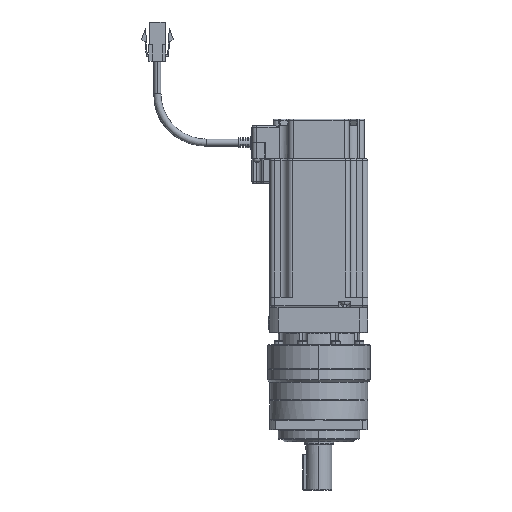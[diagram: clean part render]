
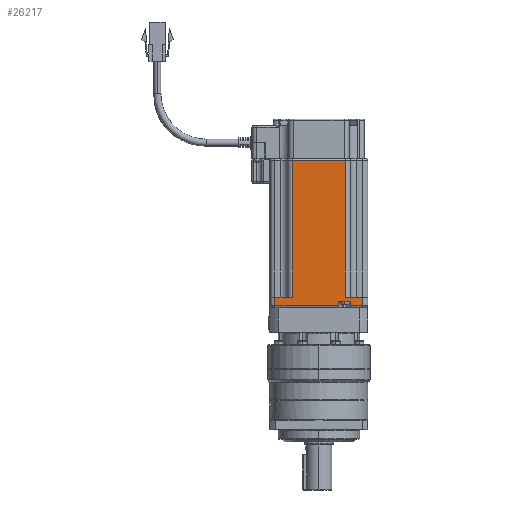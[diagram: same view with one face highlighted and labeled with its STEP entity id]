
A CAD part, left-side view. The second image highlights one B-rep face of the part: STEP entity #26217.
In plain terms, the highlighted planar face has unit normal (-1, 0, 0) as drawn and (1, 0, 0) by its records, which use the part's own axes.
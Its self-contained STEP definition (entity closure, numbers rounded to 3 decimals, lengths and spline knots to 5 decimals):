
#1265 = VERTEX_POINT ( 'NONE', #15795 ) ;
#1337 = VERTEX_POINT ( 'NONE', #15829 ) ;
#1387 = VERTEX_POINT ( 'NONE', #15854 ) ;
#1399 = VERTEX_POINT ( 'NONE', #15860 ) ;
#1407 = VERTEX_POINT ( 'NONE', #15864 ) ;
#1411 = VERTEX_POINT ( 'NONE', #15866 ) ;
#1413 = VERTEX_POINT ( 'NONE', #15867 ) ;
#1415 = VERTEX_POINT ( 'NONE', #15868 ) ;
#1417 = VERTEX_POINT ( 'NONE', #15869 ) ;
#1429 = VERTEX_POINT ( 'NONE', #15875 ) ;
#1469 = VERTEX_POINT ( 'NONE', #15895 ) ;
#1475 = VERTEX_POINT ( 'NONE', #15898 ) ;
#9415 = EDGE_CURVE ( 'NONE', #1387, #1399, #13157, .T. ) ;
#9424 = EDGE_CURVE ( 'NONE', #1399, #1337, #13171, .T. ) ;
#9426 = EDGE_CURVE ( 'NONE', #1337, #1415, #13175, .T. ) ;
#9427 = EDGE_CURVE ( 'NONE', #1415, #1411, #13176, .T. ) ;
#9430 = EDGE_CURVE ( 'NONE', #1411, #1407, #13182, .T. ) ;
#9432 = EDGE_CURVE ( 'NONE', #1407, #1413, #13186, .T. ) ;
#9433 = EDGE_CURVE ( 'NONE', #1413, #1265, #13187, .T. ) ;
#9435 = EDGE_CURVE ( 'NONE', #1265, #1417, #13167, .T. ) ;
#9443 = EDGE_CURVE ( 'NONE', #1417, #1429, #13202, .T. ) ;
#9479 = EDGE_CURVE ( 'NONE', #1475, #1387, #13264, .T. ) ;
#9481 = EDGE_CURVE ( 'NONE', #1469, #1429, #13267, .T. ) ;
#9482 = EDGE_CURVE ( 'NONE', #1475, #1469, #13272, .T. ) ;
#13157 = LINE ( 'NONE', #19327, #13160 ) ;
#13160 = VECTOR ( 'NONE', #19329, 1. ) ;
#13167 = LINE ( 'NONE', #19373, #13193 ) ;
#13171 = LINE ( 'NONE', #19351, #13174 ) ;
#13174 = VECTOR ( 'NONE', #19352, 1. ) ;
#13175 = LINE ( 'NONE', #19346, #13177 ) ;
#13176 = LINE ( 'NONE', #19358, #13179 ) ;
#13177 = VECTOR ( 'NONE', #19347, 1. ) ;
#13179 = VECTOR ( 'NONE', #19359, 1. ) ;
#13182 = LINE ( 'NONE', #19364, #13185 ) ;
#13185 = VECTOR ( 'NONE', #19365, 1. ) ;
#13186 = LINE ( 'NONE', #19353, #13188 ) ;
#13187 = LINE ( 'NONE', #19370, #13190 ) ;
#13188 = VECTOR ( 'NONE', #19354, 1. ) ;
#13190 = VECTOR ( 'NONE', #19371, 1. ) ;
#13193 = VECTOR ( 'NONE', #19366, 1. ) ;
#13202 = LINE ( 'NONE', #19392, #13206 ) ;
#13206 = VECTOR ( 'NONE', #19390, 1. ) ;
#13264 = LINE ( 'NONE', #19467, #13270 ) ;
#13267 = LINE ( 'NONE', #19477, #13273 ) ;
#13270 = VECTOR ( 'NONE', #19475, 1. ) ;
#13272 = LINE ( 'NONE', #19481, #13275 ) ;
#13273 = VECTOR ( 'NONE', #19473, 1. ) ;
#13275 = VECTOR ( 'NONE', #19483, 1. ) ;
#15795 = CARTESIAN_POINT ( 'NONE',  ( 0.09218, 0.21269, -0.211 ) ) ;
#15829 = CARTESIAN_POINT ( 'NONE',  ( 0.09218, 0.15869, -0.211 ) ) ;
#15854 = CARTESIAN_POINT ( 'NONE',  ( 0.09218, 0.16939, -0.2057 ) ) ;
#15860 = CARTESIAN_POINT ( 'NONE',  ( 0.09218, 0.15869, -0.2057 ) ) ;
#15864 = CARTESIAN_POINT ( 'NONE',  ( 0.09218, 0.20529, -0.2085 ) ) ;
#15866 = CARTESIAN_POINT ( 'NONE',  ( 0.09218, 0.19789, -0.2085 ) ) ;
#15867 = CARTESIAN_POINT ( 'NONE',  ( 0.09218, 0.20529, -0.211 ) ) ;
#15868 = CARTESIAN_POINT ( 'NONE',  ( 0.09218, 0.19789, -0.211 ) ) ;
#15869 = CARTESIAN_POINT ( 'NONE',  ( 0.09218, 0.21269, -0.2057 ) ) ;
#15875 = CARTESIAN_POINT ( 'NONE',  ( 0.09218, 0.20199, -0.2057 ) ) ;
#15895 = CARTESIAN_POINT ( 'NONE',  ( 0.09218, 0.20199, -0.122 ) ) ;
#15898 = CARTESIAN_POINT ( 'NONE',  ( 0.09218, 0.16939, -0.122 ) ) ;
#17571 = ORIENTED_EDGE ( 'NONE', *, *, #9443, .T. ) ;
#17572 = ORIENTED_EDGE ( 'NONE', *, *, #9481, .F. ) ;
#17573 = ORIENTED_EDGE ( 'NONE', *, *, #9482, .F. ) ;
#17574 = ORIENTED_EDGE ( 'NONE', *, *, #9479, .T. ) ;
#17575 = ORIENTED_EDGE ( 'NONE', *, *, #9415, .T. ) ;
#17576 = ORIENTED_EDGE ( 'NONE', *, *, #9424, .T. ) ;
#17577 = ORIENTED_EDGE ( 'NONE', *, *, #9426, .T. ) ;
#17578 = ORIENTED_EDGE ( 'NONE', *, *, #9427, .T. ) ;
#17579 = ORIENTED_EDGE ( 'NONE', *, *, #9430, .T. ) ;
#17580 = ORIENTED_EDGE ( 'NONE', *, *, #9432, .T. ) ;
#17581 = ORIENTED_EDGE ( 'NONE', *, *, #9433, .T. ) ;
#17582 = ORIENTED_EDGE ( 'NONE', *, *, #9435, .T. ) ;
#19327 = CARTESIAN_POINT ( 'NONE',  ( 0.09218, 0.18569, -0.2057 ) ) ;
#19329 = DIRECTION ( 'NONE',  ( 0., -1., 0. ) ) ;
#19346 = CARTESIAN_POINT ( 'NONE',  ( 0.09218, 0.18569, -0.211 ) ) ;
#19347 = DIRECTION ( 'NONE',  ( 0., 1., 0. ) ) ;
#19351 = CARTESIAN_POINT ( 'NONE',  ( 0.09218, 0.15869, -0.1665 ) ) ;
#19352 = DIRECTION ( 'NONE',  ( 0., 0., -1. ) ) ;
#19353 = CARTESIAN_POINT ( 'NONE',  ( 0.09218, 0.20529, -0.1665 ) ) ;
#19354 = DIRECTION ( 'NONE',  ( 0., 0., -1. ) ) ;
#19358 = CARTESIAN_POINT ( 'NONE',  ( 0.09218, 0.19789, -0.1665 ) ) ;
#19359 = DIRECTION ( 'NONE',  ( 0., 0., 1. ) ) ;
#19364 = CARTESIAN_POINT ( 'NONE',  ( 0.09218, 0.18569, -0.2085 ) ) ;
#19365 = DIRECTION ( 'NONE',  ( 0., 1., 0. ) ) ;
#19366 = DIRECTION ( 'NONE',  ( 0., 0., 1. ) ) ;
#19370 = CARTESIAN_POINT ( 'NONE',  ( 0.09218, 0.18569, -0.211 ) ) ;
#19371 = DIRECTION ( 'NONE',  ( 0., 1., 0. ) ) ;
#19373 = CARTESIAN_POINT ( 'NONE',  ( 0.09218, 0.21269, -0.1665 ) ) ;
#19390 = DIRECTION ( 'NONE',  ( 0., -1., 0. ) ) ;
#19392 = CARTESIAN_POINT ( 'NONE',  ( 0.09218, 0.18569, -0.2057 ) ) ;
#19467 = CARTESIAN_POINT ( 'NONE',  ( 0.09218, 0.16939, -0.1665 ) ) ;
#19473 = DIRECTION ( 'NONE',  ( 0., 0., -1. ) ) ;
#19475 = DIRECTION ( 'NONE',  ( 0., 0., -1. ) ) ;
#19477 = CARTESIAN_POINT ( 'NONE',  ( 0.09218, 0.20199, -0.16335 ) ) ;
#19481 = CARTESIAN_POINT ( 'NONE',  ( 0.09218, 0.18569, -0.122 ) ) ;
#19483 = DIRECTION ( 'NONE',  ( 0., 1., 0. ) ) ;
#26217 = ADVANCED_FACE ( 'NONE', ( #39300 ), #38743, .T. ) ;
#27339 = EDGE_LOOP ( 'NONE', ( #17571, #17572, #17573, #17574, #17575, #17576, #17577, #17578, #17579, #17580, #17581, #17582 ) ) ;
#32600 = AXIS2_PLACEMENT_3D ( 'NONE', #38741, #38740, #38745 ) ;
#38740 = DIRECTION ( 'NONE',  ( 1., 0., 0. ) ) ;
#38741 = CARTESIAN_POINT ( 'NONE',  ( 0.09218, 0.15569, -0.212 ) ) ;
#38743 = PLANE ( 'NONE',  #32600 ) ;
#38745 = DIRECTION ( 'NONE',  ( 0., 1., 0. ) ) ;
#39300 = FACE_OUTER_BOUND ( 'NONE', #27339, .T. ) ;
